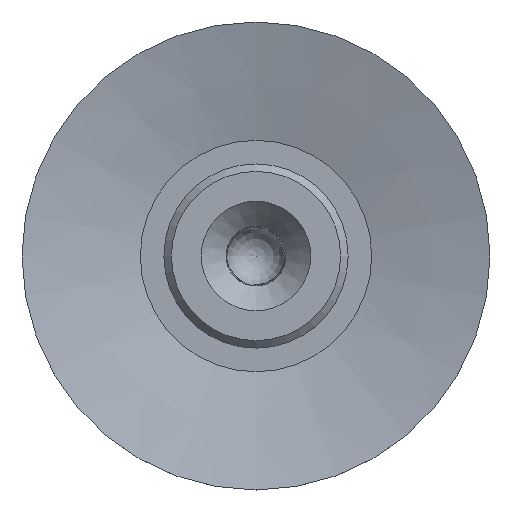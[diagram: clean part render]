
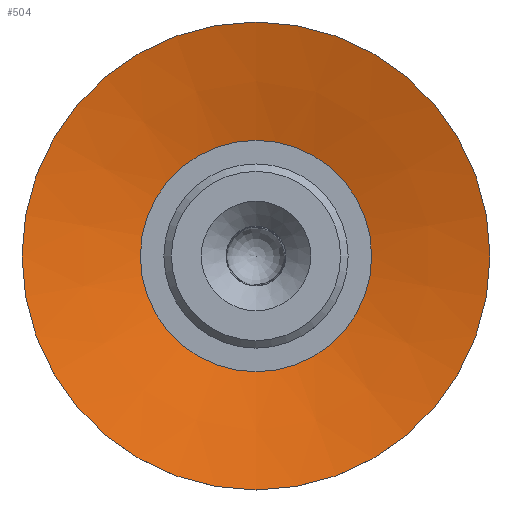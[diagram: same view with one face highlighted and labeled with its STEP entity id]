
A CAD part, top view. The second image highlights one B-rep face of the part: STEP entity #504.
In plain terms, the highlighted conical face has half-angle 75 degrees and reference radius 47 mm.
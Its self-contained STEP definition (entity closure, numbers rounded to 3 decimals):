
#504=ADVANCED_FACE('',(#1125,#1126),#1127,.F.);
#1125=FACE_BOUND('',#2619,.T.);
#1126=FACE_OUTER_BOUND('',#2620,.T.);
#1127=CONICAL_SURFACE('',#2621,47.0,1.309);
#2619=EDGE_LOOP('',(#3959));
#2620=EDGE_LOOP('',(#3960));
#2621=AXIS2_PLACEMENT_3D('',#3961,#3962,#3963);
#3959=ORIENTED_EDGE('',*,*,#4973,.T.);
#3960=ORIENTED_EDGE('',*,*,#4971,.F.);
#3961=CARTESIAN_POINT('',(0.0,0.0,2.517));
#3962=DIRECTION('',(-0.0,0.,1.0));
#3963=DIRECTION('',(0.0,-1.0,0.));
#4971=EDGE_CURVE('',#5684,#5684,#5685,.T.);
#4973=EDGE_CURVE('',#5687,#5687,#5688,.T.);
#5684=VERTEX_POINT('',#6766);
#5685=CIRCLE('',#6767,47.0);
#5687=VERTEX_POINT('',#6769);
#5688=CIRCLE('',#6770,23.237);
#6766=CARTESIAN_POINT('',(0.0,47.0,2.517));
#6767=AXIS2_PLACEMENT_3D('',#7462,#7463,#7464);
#6769=CARTESIAN_POINT('',(0.0,23.237,-3.85));
#6770=AXIS2_PLACEMENT_3D('',#7465,#7466,#7467);
#7462=CARTESIAN_POINT('',(0.0,0.0,2.517));
#7463=DIRECTION('',(-0.0,0.,-1.0));
#7464=DIRECTION('',(0.0,1.0,0.));
#7465=CARTESIAN_POINT('',(0.0,0.0,-3.85));
#7466=DIRECTION('',(-0.0,0.,-1.0));
#7467=DIRECTION('',(0.0,1.0,0.));
